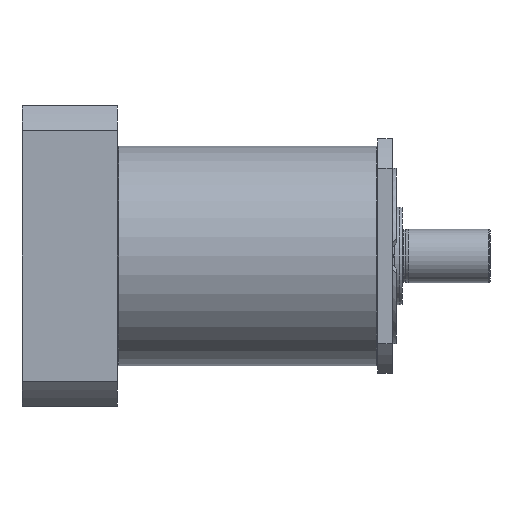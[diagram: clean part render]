
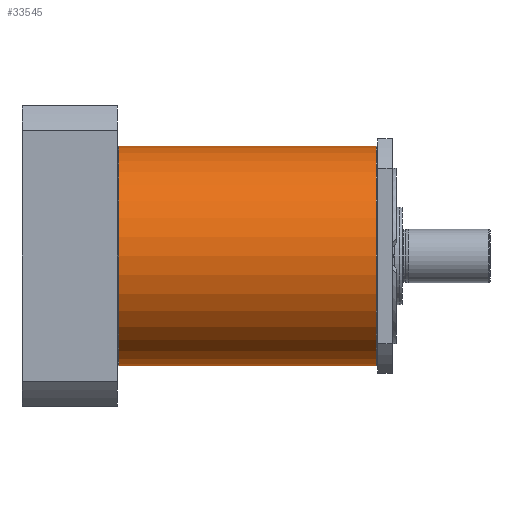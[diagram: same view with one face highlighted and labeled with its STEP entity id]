
A CAD part, front view. The second image highlights one B-rep face of the part: STEP entity #33545.
In plain terms, the highlighted cylindrical face has radius 45 mm (diameter 90 mm), a partial arc.
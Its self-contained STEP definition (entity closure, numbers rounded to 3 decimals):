
#1636 = AXIS2_PLACEMENT_3D ( 'NONE', #5574, #31288, #28533 ) ;
#2177 = CIRCLE ( 'NONE', #1636, 45. ) ;
#3301 = ORIENTED_EDGE ( 'NONE', *, *, #13014, .T. ) ;
#4500 = VERTEX_POINT ( 'NONE', #27457 ) ;
#5574 = CARTESIAN_POINT ( 'NONE',  ( 0.5, 0., 0. ) ) ;
#9646 = VECTOR ( 'NONE', #30659, 1000. ) ;
#9987 = DIRECTION ( 'NONE',  ( 1., 0., 0. ) ) ;
#10816 = VERTEX_POINT ( 'NONE', #16818 ) ;
#11668 = ORIENTED_EDGE ( 'NONE', *, *, #15738, .T. ) ;
#12518 = LINE ( 'NONE', #14772, #9646 ) ;
#12608 = VECTOR ( 'NONE', #9987, 1000. ) ;
#13014 = EDGE_CURVE ( 'NONE', #10816, #15281, #12518, .T. ) ;
#14669 = LINE ( 'NONE', #22841, #12608 ) ;
#14772 = CARTESIAN_POINT ( 'NONE',  ( 52.368, 0., -45. ) ) ;
#15281 = VERTEX_POINT ( 'NONE', #23938 ) ;
#15738 = EDGE_CURVE ( 'NONE', #4500, #10816, #2177, .T. ) ;
#15896 = EDGE_CURVE ( 'NONE', #4500, #30757, #14669, .T. ) ;
#16025 = DIRECTION ( 'NONE',  ( 0., 0., 1. ) ) ;
#16195 = CARTESIAN_POINT ( 'NONE',  ( 106., 0., 0. ) ) ;
#16739 = CARTESIAN_POINT ( 'NONE',  ( 106., 0., 45. ) ) ;
#16818 = CARTESIAN_POINT ( 'NONE',  ( 0.5, 0., -45. ) ) ;
#17495 = CIRCLE ( 'NONE', #29511, 45. ) ;
#20423 = CARTESIAN_POINT ( 'NONE',  ( 52.368, 0., 0. ) ) ;
#20715 = AXIS2_PLACEMENT_3D ( 'NONE', #20423, #33282, #27782 ) ;
#21167 = ORIENTED_EDGE ( 'NONE', *, *, #15896, .F. ) ;
#21313 = DIRECTION ( 'NONE',  ( -1., 0., 0. ) ) ;
#22841 = CARTESIAN_POINT ( 'NONE',  ( 52.368, 0., 45. ) ) ;
#23040 = EDGE_LOOP ( 'NONE', ( #21167, #11668, #3301, #29394 ) ) ;
#23938 = CARTESIAN_POINT ( 'NONE',  ( 106., 0., -45. ) ) ;
#25222 = EDGE_CURVE ( 'NONE', #15281, #30757, #17495, .T. ) ;
#27457 = CARTESIAN_POINT ( 'NONE',  ( 0.5, 0., 45. ) ) ;
#27782 = DIRECTION ( 'NONE',  ( 0., 0., -1. ) ) ;
#28533 = DIRECTION ( 'NONE',  ( 0., 0., -1. ) ) ;
#29394 = ORIENTED_EDGE ( 'NONE', *, *, #25222, .T. ) ;
#29511 = AXIS2_PLACEMENT_3D ( 'NONE', #16195, #21313, #16025 ) ;
#30659 = DIRECTION ( 'NONE',  ( 1., 0., 0. ) ) ;
#30757 = VERTEX_POINT ( 'NONE', #16739 ) ;
#31288 = DIRECTION ( 'NONE',  ( 1., 0., 0. ) ) ;
#32935 = CYLINDRICAL_SURFACE ( 'NONE', #20715, 45. ) ;
#33282 = DIRECTION ( 'NONE',  ( 1., 0., 0. ) ) ;
#33449 = FACE_OUTER_BOUND ( 'NONE', #23040, .T. ) ;
#33545 = ADVANCED_FACE ( 'NONE', ( #33449 ), #32935, .T. ) ;
